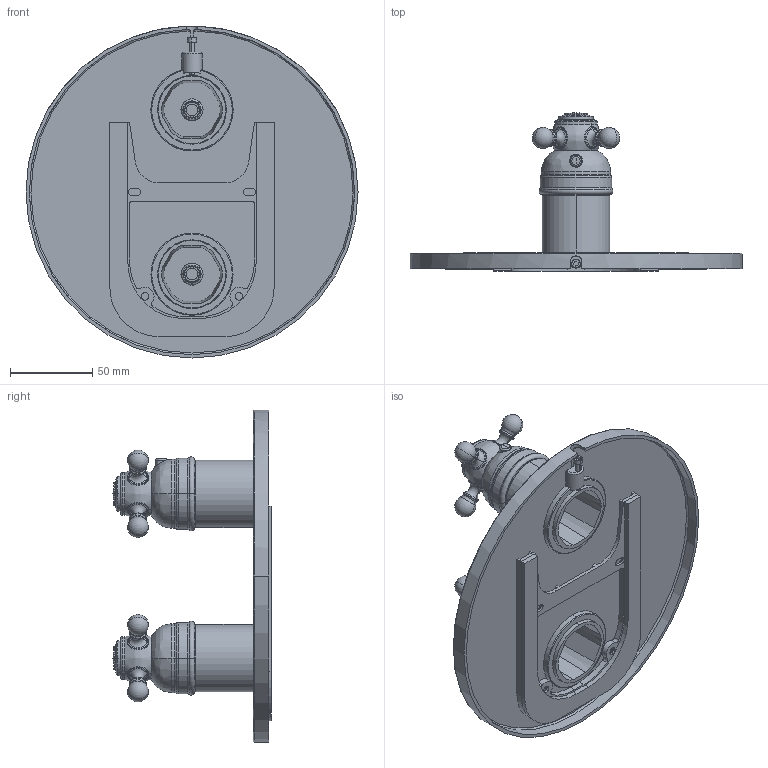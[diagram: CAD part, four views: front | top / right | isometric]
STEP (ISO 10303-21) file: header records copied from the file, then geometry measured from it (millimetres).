
FILE_DESCRIPTION((''),'2;1');
FILE_NAME('37706--00_ASM','2022-05-11T07:39:07',('lalo2'),(''),'CREO PARAMETRIC BY PTC INC, 2018190','CREO PARAMETRIC BY PTC INC, 2018190','');
FILE_SCHEMA(('CONFIG_CONTROL_DESIGN'));
Products named in the file (27): 46009--; 4497600; 4606500; 4390700; 46010--_ASM; 44978--; 4498100; 46017--_ASM; 43866--; 46064--; 1904100; 4606300; 46062--_ASM; 4498000; 46021--_ASM; 44219--; 43872--; 1904300; 46061--_ASM; 4612600; 4497500; 4602300_ASM; 19117--; 1911120; 46025--_ASM; 37706--00_SUB01_ASM; 37706--00_ASM
Assembly tree (33 placements, depth 4):
  37706--00_ASM
    37706--00_SUB01_ASM
      46010--_ASM
        46009--
        4497600  x2
        4606500
        4390700  x2
      46017--_ASM
        44978--
        4498100
      46062--_ASM
        43866--
        46064--
        1904100
        4606300
      46021--_ASM
        44978--
        4498000
      46061--_ASM
        43866--
        44219--
        1904100
        43872--
        1904300
        4606300
      4602300_ASM
        4612600
        4497500
      46025--_ASM  x2
        19117--
        1911120
Bounding box: 202 x 96.15 x 202 mm (x, y, z)
Volume: 199260.3 mm3; surface area: 170489.2 mm2
Topology: 26 solids, 33 shells, 2474 faces, 6463 edges, 4062 vertices
Faces by surface type: plane 1085, cylinder 745, torus 275, cone 209, bspline 110, sphere 46, revolution 4
Entity records: 64922 total; most frequent: CARTESIAN_POINT 20416, ORIENTED_EDGE 9548, DIRECTION 8803, EDGE_CURVE 4782, AXIS2_PLACEMENT_3D 3230, VERTEX_POINT 3057, VECTOR 2339, LINE 2339
